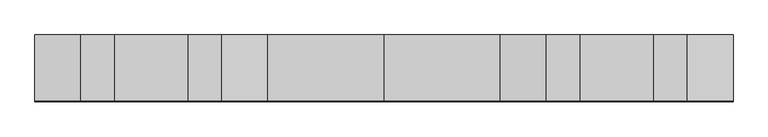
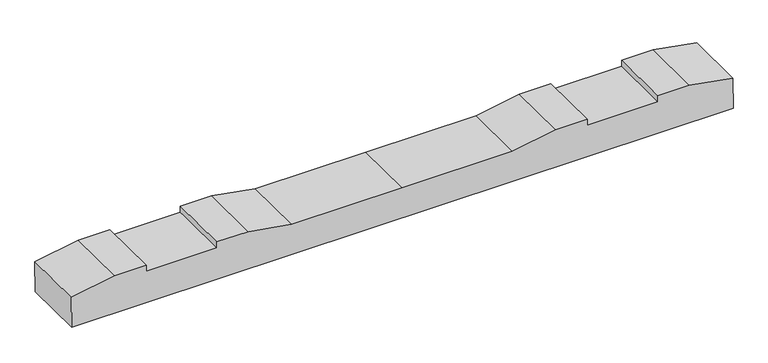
"""IFC4 building model written with IfcOpenShell, lengths in millimetres: proxy geometry, 轨枕-立面角度 : 轨枕-立面角度."""

from ifc_helpers import new_model, si_unit, frame, origin, place, context, project, spatial, polyline, outline, extrude, source, transform, mapped, element, save


def generic_models_c417fa0d(model_context):
    return source(origin(), model_context, "Body", "SweptSolid", [
        extrude(outline(polyline([(0.0, 0.0), (0.0, -100.0206889), (-137.8834664, -124.5), (-237.8834664, -124.5), (-237.8834664, -104.5), (-461.8834664, -104.5), (-461.8834664, -124.5), (-561.8834664, -124.5), (-699.8834664, -100.0), (-1049.8834664, -100.0), (-1399.8834664, -100.0), (-1537.8834664, -124.5), (-1637.8834664, -124.5), (-1637.8834664, -104.5), (-1861.8834664, -104.5), (-1861.8834664, -124.5), (-1961.8834664, -124.5), (-2099.7669328, -100.0206889), (-2099.7669328, 0.0), (0.0, 0.0)])), frame((-1049.8834664, 98.9035643, -105.5383104), z_axis=(0.0, -0.999945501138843, 0.010440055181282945), x_axis=(-1.0, 0.0, 0.0)), (0.0, 0.0, 1.0), 200.0),
    ])


if __name__ == "__main__":
    model = new_model("IFC4")
    model_context = context("Model", 3, world=origin())
    ifc_project = project(units=[si_unit("LENGTHUNIT", "METRE", prefix="MILLI")], contexts=[model_context])
    site = spatial("IfcSite", under=ifc_project)
    building = spatial("IfcBuilding", under=site)
    placement = place(None, origin())
    generic_models_shape = generic_models_c417fa0d(model_context)
    element("IfcBuildingElementProxy", 1, Name="轨枕-立面角度 : 轨枕-立面角度", ObjectType="轨枕-立面角度 : 轨枕-立面角度", at=placement, inside=building, context=model_context, shape_type="MappedRepresentation", body=[
        mapped(generic_models_shape, transform((0.0, 0.0, 0.0), x_axis=(1.0, 0.0, 0.0), y_axis=(0.0, 1.0, 0.0), z_axis=(0.0, 0.0, 1.0))),
    ])
    save(model, "model.ifc")
